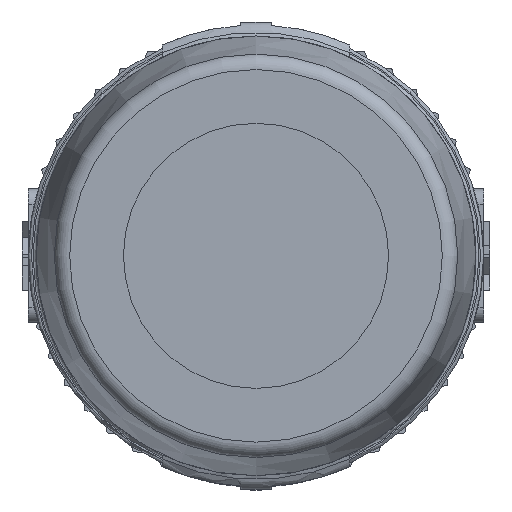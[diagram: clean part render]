
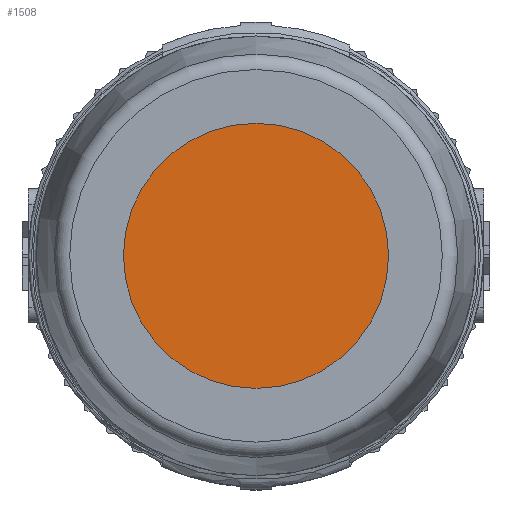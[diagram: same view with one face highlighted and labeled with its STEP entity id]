
A CAD part, left-side view. The second image highlights one B-rep face of the part: STEP entity #1508.
In plain terms, the highlighted planar face has unit normal (-1, 0, 0).
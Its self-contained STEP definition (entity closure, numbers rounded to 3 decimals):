
#1508 = ADVANCED_FACE( '', ( #3326 ), #3327, .F. );
#3326 = FACE_OUTER_BOUND( '', #6743, .T. );
#3327 = PLANE( '', #6744 );
#6743 = EDGE_LOOP( '', ( #11649 ) );
#6744 = AXIS2_PLACEMENT_3D( '', #11650, #11651, #11652 );
#11649 = ORIENTED_EDGE( '', *, *, #15995, .F. );
#11650 = CARTESIAN_POINT( '', ( -49., 0., 0. ) );
#11651 = DIRECTION( '', ( 1., 0., 0. ) );
#11652 = DIRECTION( '', ( 0., 1., 0. ) );
#15995 = EDGE_CURVE( '', #19482, #19482, #19483, .T. );
#19482 = VERTEX_POINT( '', #25957 );
#19483 = CIRCLE( '', #25958, 4.25 );
#25957 = CARTESIAN_POINT( '', ( -49., -4.25, 0. ) );
#25958 = AXIS2_PLACEMENT_3D( '', #28546, #28547, #28548 );
#28546 = CARTESIAN_POINT( '', ( -49., 0., 0. ) );
#28547 = DIRECTION( '', ( 1., 0., 0. ) );
#28548 = DIRECTION( '', ( 0., -1., 0. ) );
